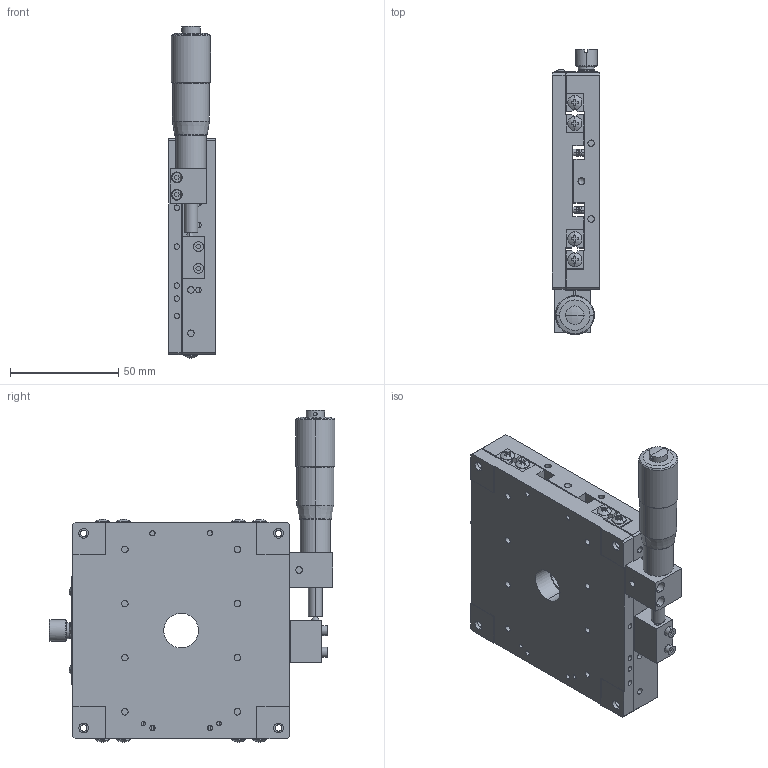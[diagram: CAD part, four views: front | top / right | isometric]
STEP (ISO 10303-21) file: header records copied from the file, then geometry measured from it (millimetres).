
FILE_DESCRIPTION (( 'STEP AP214' ), '1' );
FILE_NAME ('PHL-10101SR.STEP', '2018-07-24T03:13:45', ( '微软用户' ), ( '微软中国' ), 'SwSTEP 2.0', 'SolidWorks 2015', '' );
FILE_SCHEMA (( 'AUTOMOTIVE_DESIGN' ));
Length unit declared in the file: millimetre
Products named in the file (1): PHL-10101SR
Bounding box: 22 x 132.05 x 153.39 mm (x, y, z)
Volume: 213427.3 mm3; surface area: 98052.7 mm2
Topology: 50 solids, 50 shells, 1333 faces, 3364 edges, 2183 vertices
Faces by surface type: plane 661, cylinder 563, cone 78, bspline 31
Entity records: 57707 total; most frequent: CARTESIAN_POINT 9597, DIRECTION 6928, ORIENTED_EDGE 6676, EDGE_CURVE 3338, AXIS2_PLACEMENT_3D 2590, VERTEX_POINT 2177, LINE 1748, VECTOR 1748
